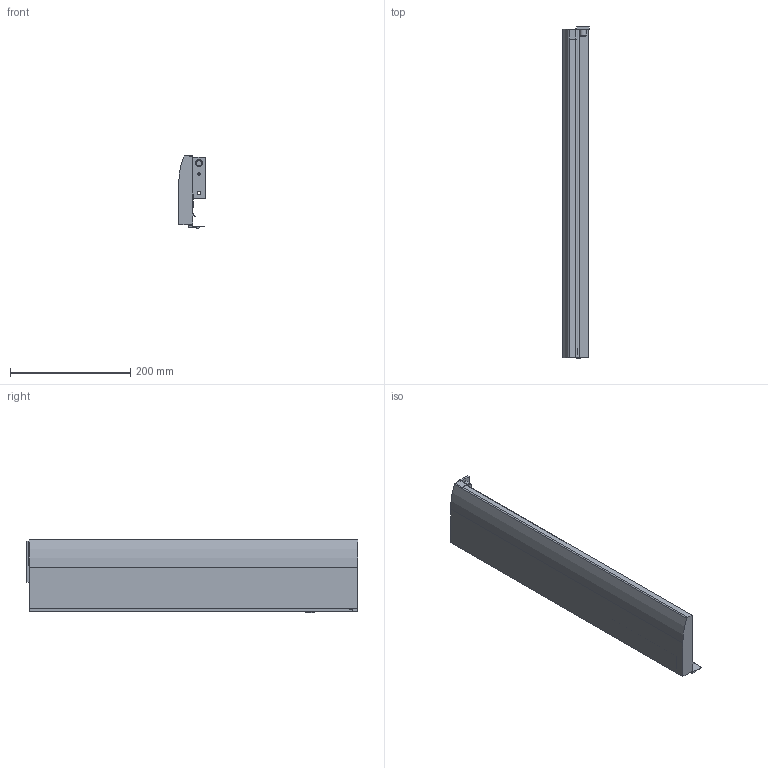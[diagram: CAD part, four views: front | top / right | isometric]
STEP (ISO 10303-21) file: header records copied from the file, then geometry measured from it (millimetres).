
FILE_DESCRIPTION (( 'STEP AP214' ), '1' );
FILE_NAME ('_IMOS_NOVA-Pro_Dekor-H122_DL_NL550_LI.step', '2010-07-14T11:02:27', ( 'grass' ), ( '' ), 'SwSTEP 2.0', 'SolidWorks 2010', '' );
FILE_SCHEMA (( 'AUTOMOTIVE_DESIGN' ));
Length unit declared in the file: millimetre
Products named in the file (1): _IMOS_NOVA-Pro_Dekor-H122_DL_NL550_LI
Bounding box: 44.3 x 552.7 x 122.49 mm (x, y, z)
Volume: 1014494.2 mm3; surface area: 225303.8 mm2
Topology: 1 solids, 1 shells, 84 faces, 227 edges, 150 vertices
Faces by surface type: plane 52, cylinder 27, cone 4, bspline 1
Entity records: 2685 total; most frequent: CARTESIAN_POINT 475, DIRECTION 454, ORIENTED_EDGE 454, EDGE_CURVE 227, VECTOR 164, LINE 164, VERTEX_POINT 150, AXIS2_PLACEMENT_3D 145
